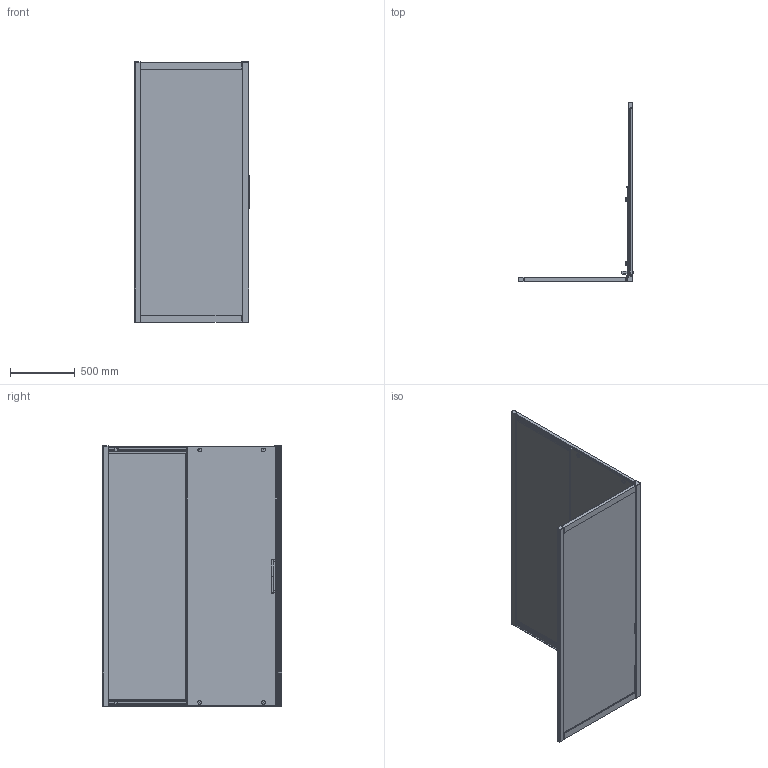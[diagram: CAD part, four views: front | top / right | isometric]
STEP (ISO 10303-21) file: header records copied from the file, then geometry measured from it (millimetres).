
FILE_DESCRIPTION(/* description */ (''),/* implementation_level */ '2;1');
FILE_NAME(/* name */ 'D:\Работа\Сергей\! Готово\Документация и модели всех серий\KUBELE динамические модели и набор документов\19 NEW\KÜBELE DE019R\KÜBELE DE019R-3D.stp',/* time_stamp */ '2019-06-16T15:34:08+03:00',/* author */ ('User'),/* organization */ (''),/* preprocessor_version */ 'ST-DEVELOPER v15.2',/* originating_system */ 'Autodesk Inventor 2014',/* authorisation */ '');
FILE_SCHEMA (('CONFIG_CONTROL_DESIGN'));
Products named in the file (1): KÜBELE DE019R-3D
Bounding box: 889.12 x 1382.7 x 2002.5 mm (x, y, z)
Volume: 39292969.7 mm3; surface area: 10535996.9 mm2
Topology: 1 solids, 15 shells, 1919 faces, 5335 edges, 3408 vertices
Faces by surface type: plane 980, cylinder 603, bspline 137, torus 99, sphere 52, cone 48
Full cylindrical faces by diameter (mm): 3 x2, 3.7 x24, 8.4 x4, 9.5 x8, 10 x2, 13.2 x4, 14 x8, 16.5 x8, 18 x8, 19 x12, 22 x4, 28.7 x4, 30 x6
Entity records: 72452 total; most frequent: CARTESIAN_POINT 21821, ORIENTED_EDGE 10324, DIRECTION 9953, EDGE_CURVE 5144, AXIS2_PLACEMENT_3D 3374, VERTEX_POINT 3348, LINE 3205, VECTOR 3205
